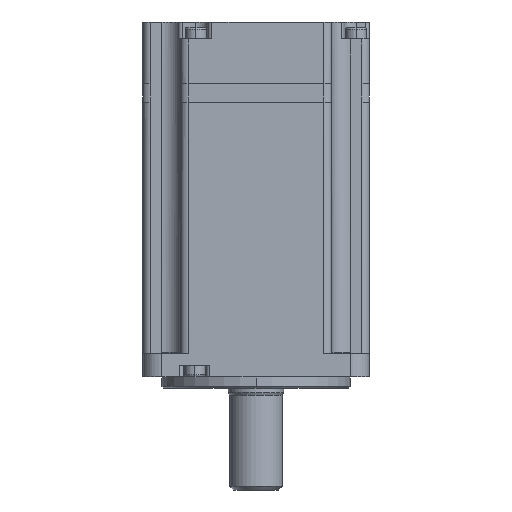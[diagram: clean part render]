
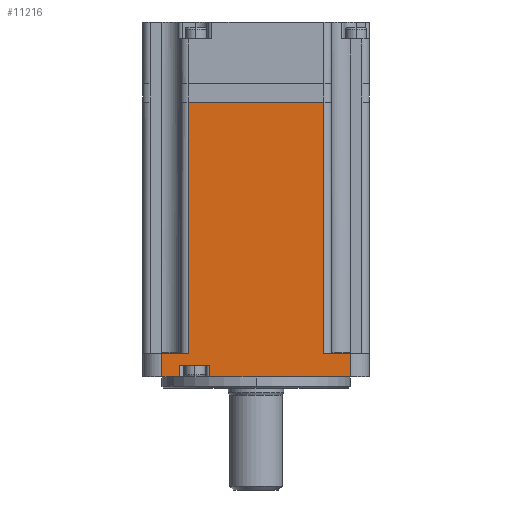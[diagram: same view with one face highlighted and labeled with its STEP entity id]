
A CAD part, front view. The second image highlights one B-rep face of the part: STEP entity #11216.
In plain terms, the highlighted planar face has unit normal (0, -1, 0).
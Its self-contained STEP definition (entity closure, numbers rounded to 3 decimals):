
#196=DIRECTION('',(1.,0.,0.));
#197=VECTOR('',#196,36.);
#198=CARTESIAN_POINT('',(-18.,-30.,66.5));
#199=LINE('',#198,#197);
#300=DIRECTION('',(0.,0.,-1.));
#301=VECTOR('',#300,6.2);
#302=CARTESIAN_POINT('',(25.,-30.,-0.2));
#303=LINE('',#302,#301);
#304=DIRECTION('',(-1.,0.,0.));
#305=VECTOR('',#304,37.224);
#306=CARTESIAN_POINT('',(25.,-30.,-6.4));
#307=LINE('',#306,#305);
#308=DIRECTION('',(-1.,0.,0.));
#309=VECTOR('',#308,4.776);
#310=CARTESIAN_POINT('',(-20.224,-30.,-6.4));
#311=LINE('',#310,#309);
#316=DIRECTION('',(0.,0.,-1.));
#317=VECTOR('',#316,66.7);
#318=CARTESIAN_POINT('',(-18.,-30.,66.5));
#319=LINE('',#318,#317);
#369=DIRECTION('',(-1.,0.,0.));
#370=VECTOR('',#369,7.);
#371=CARTESIAN_POINT('',(-18.,-30.,-0.2));
#372=LINE('',#371,#370);
#4585=DIRECTION('',(0.,0.,-1.));
#4586=VECTOR('',#4585,6.2);
#4587=CARTESIAN_POINT('',(-25.,-30.,-0.2));
#4588=LINE('',#4587,#4586);
#4589=DIRECTION('',(0.,0.,1.));
#4590=VECTOR('',#4589,3.15);
#4591=CARTESIAN_POINT('',(-20.224,-30.,-6.4));
#4592=LINE('',#4591,#4590);
#4612=DIRECTION('',(1.,0.,0.));
#4613=VECTOR('',#4612,8.);
#4614=CARTESIAN_POINT('',(-20.224,-30.,-3.25));
#4615=LINE('',#4614,#4613);
#4880=DIRECTION('',(0.,0.,-1.));
#4881=VECTOR('',#4880,3.15);
#4882=CARTESIAN_POINT('',(-12.224,-30.,-3.25));
#4883=LINE('',#4882,#4881);
#4924=DIRECTION('',(-1.,0.,0.));
#4925=VECTOR('',#4924,7.);
#4926=CARTESIAN_POINT('',(25.,-30.,-0.2));
#4927=LINE('',#4926,#4925);
#4938=DIRECTION('',(0.,0.,1.));
#4939=VECTOR('',#4938,66.7);
#4940=CARTESIAN_POINT('',(18.,-30.,-0.2));
#4941=LINE('',#4940,#4939);
#10302=CARTESIAN_POINT('',(-25.,-30.,-6.4));
#10304=VERTEX_POINT('',#10302);
#10305=CARTESIAN_POINT('',(-20.224,-30.,-6.4));
#10307=VERTEX_POINT('',#10305);
#10314=CARTESIAN_POINT('',(-12.224,-30.,-6.4));
#10316=VERTEX_POINT('',#10314);
#10317=CARTESIAN_POINT('',(25.,-30.,-6.4));
#10319=VERTEX_POINT('',#10317);
#10359=CARTESIAN_POINT('',(25.,-30.,-0.2));
#10360=VERTEX_POINT('',#10359);
#10361=CARTESIAN_POINT('',(-25.,-30.,-0.2));
#10362=VERTEX_POINT('',#10361);
#10401=CARTESIAN_POINT('',(18.,-30.,-0.2));
#10403=VERTEX_POINT('',#10401);
#10426=CARTESIAN_POINT('',(-18.,-30.,-0.2));
#10428=VERTEX_POINT('',#10426);
#10438=CARTESIAN_POINT('',(-20.224,-30.,-3.25));
#10440=VERTEX_POINT('',#10438);
#10441=CARTESIAN_POINT('',(-12.224,-30.,-3.25));
#10442=VERTEX_POINT('',#10441);
#10772=CARTESIAN_POINT('',(-18.,-30.,66.5));
#10773=CARTESIAN_POINT('',(18.,-30.,66.5));
#10774=VERTEX_POINT('',#10772);
#10775=VERTEX_POINT('',#10773);
#11186=CARTESIAN_POINT('',(0.,-30.,-3.2));
#11187=DIRECTION('',(0.,1.,0.));
#11188=DIRECTION('',(1.,0.,0.));
#11189=AXIS2_PLACEMENT_3D('',#11186,#11187,#11188);
#11190=PLANE('',#11189);
#11192=ORIENTED_EDGE('',*,*,#11191,.F.);
#11193=ORIENTED_EDGE('',*,*,#11112,.T.);
#11195=ORIENTED_EDGE('',*,*,#11194,.F.);
#11197=ORIENTED_EDGE('',*,*,#11196,.F.);
#11199=ORIENTED_EDGE('',*,*,#11198,.T.);
#11201=ORIENTED_EDGE('',*,*,#11200,.T.);
#11203=ORIENTED_EDGE('',*,*,#11202,.F.);
#11205=ORIENTED_EDGE('',*,*,#11204,.F.);
#11207=ORIENTED_EDGE('',*,*,#11206,.F.);
#11209=ORIENTED_EDGE('',*,*,#11208,.T.);
#11211=ORIENTED_EDGE('',*,*,#11210,.F.);
#11213=ORIENTED_EDGE('',*,*,#11212,.F.);
#11214=EDGE_LOOP('',(#11192,#11193,#11195,#11197,#11199,#11201,#11203,#11205,
#11207,#11209,#11211,#11213));
#11215=FACE_OUTER_BOUND('',#11214,.F.);
#11216=ADVANCED_FACE('',(#11215),#11190,.F.);
#11112=EDGE_CURVE('',#10774,#10775,#199,.T.);
#11191=EDGE_CURVE('',#10774,#10428,#319,.T.);
#11194=EDGE_CURVE('',#10403,#10775,#4941,.T.);
#11196=EDGE_CURVE('',#10360,#10403,#4927,.T.);
#11198=EDGE_CURVE('',#10360,#10319,#303,.T.);
#11200=EDGE_CURVE('',#10319,#10316,#307,.T.);
#11202=EDGE_CURVE('',#10442,#10316,#4883,.T.);
#11204=EDGE_CURVE('',#10440,#10442,#4615,.T.);
#11206=EDGE_CURVE('',#10307,#10440,#4592,.T.);
#11208=EDGE_CURVE('',#10307,#10304,#311,.T.);
#11210=EDGE_CURVE('',#10362,#10304,#4588,.T.);
#11212=EDGE_CURVE('',#10428,#10362,#372,.T.);
